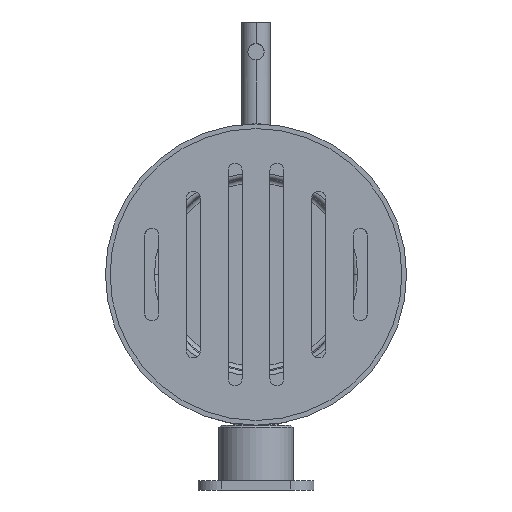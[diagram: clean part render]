
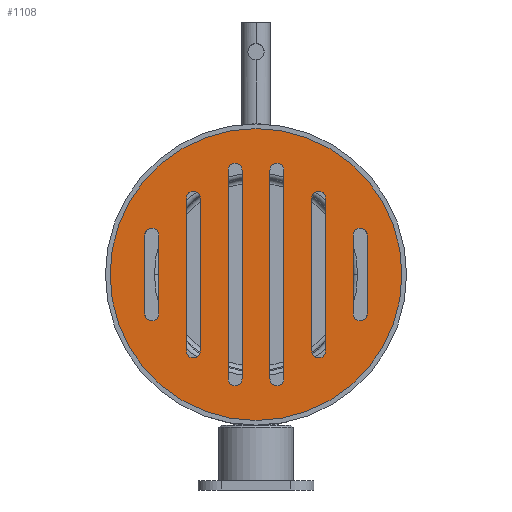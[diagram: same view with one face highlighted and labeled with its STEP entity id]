
A CAD part, front view. The second image highlights one B-rep face of the part: STEP entity #1108.
In plain terms, the highlighted planar face has unit normal (0, -1, 0).
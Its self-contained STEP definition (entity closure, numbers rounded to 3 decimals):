
#115=CARTESIAN_POINT('',(0.,-144.5,0.));
#116=DIRECTION('',(0.,1.,0.));
#117=DIRECTION('',(1.,0.,0.));
#118=AXIS2_PLACEMENT_3D('',#115,#116,#117);
#120=CARTESIAN_POINT('',(0.,-144.5,0.));
#121=DIRECTION('',(0.,-1.,0.));
#122=DIRECTION('',(1.,0.,0.));
#123=AXIS2_PLACEMENT_3D('',#120,#121,#122);
#125=DIRECTION('',(0.,0.,1.));
#126=VECTOR('',#125,17.);
#127=CARTESIAN_POINT('',(24.,-144.5,-8.5));
#128=LINE('',#127,#126);
#129=DIRECTION('',(0.,0.,-1.));
#130=VECTOR('',#129,17.);
#131=CARTESIAN_POINT('',(21.,-144.5,8.5));
#132=LINE('',#131,#130);
#133=DIRECTION('',(0.,0.,-1.));
#134=VECTOR('',#133,33.);
#135=CARTESIAN_POINT('',(12.,-144.5,16.5));
#136=LINE('',#135,#134);
#137=DIRECTION('',(0.,0.,1.));
#138=VECTOR('',#137,33.);
#139=CARTESIAN_POINT('',(15.,-144.5,-16.5));
#140=LINE('',#139,#138);
#141=DIRECTION('',(0.,0.,-1.));
#142=VECTOR('',#141,45.);
#143=CARTESIAN_POINT('',(3.,-144.5,22.5));
#144=LINE('',#143,#142);
#145=DIRECTION('',(0.,0.,1.));
#146=VECTOR('',#145,45.);
#147=CARTESIAN_POINT('',(6.,-144.5,-22.5));
#148=LINE('',#147,#146);
#149=DIRECTION('',(0.,0.,-1.));
#150=VECTOR('',#149,45.);
#151=CARTESIAN_POINT('',(-6.,-144.5,22.5));
#152=LINE('',#151,#150);
#153=DIRECTION('',(0.,0.,1.));
#154=VECTOR('',#153,45.);
#155=CARTESIAN_POINT('',(-3.,-144.5,-22.5));
#156=LINE('',#155,#154);
#157=DIRECTION('',(0.,0.,-1.));
#158=VECTOR('',#157,33.);
#159=CARTESIAN_POINT('',(-15.,-144.5,16.5));
#160=LINE('',#159,#158);
#161=DIRECTION('',(0.,0.,1.));
#162=VECTOR('',#161,33.);
#163=CARTESIAN_POINT('',(-12.,-144.5,-16.5));
#164=LINE('',#163,#162);
#165=DIRECTION('',(0.,0.,-1.));
#166=VECTOR('',#165,17.);
#167=CARTESIAN_POINT('',(-24.,-144.5,8.5));
#168=LINE('',#167,#166);
#169=DIRECTION('',(0.,0.,1.));
#170=VECTOR('',#169,17.);
#171=CARTESIAN_POINT('',(-21.,-144.5,-8.5));
#172=LINE('',#171,#170);
#186=CARTESIAN_POINT('',(22.5,-144.5,-8.5));
#187=DIRECTION('',(0.,1.,0.));
#188=DIRECTION('',(1.,0.,0.));
#189=AXIS2_PLACEMENT_3D('',#186,#187,#188);
#204=CARTESIAN_POINT('',(22.5,-144.5,8.5));
#205=DIRECTION('',(0.,1.,0.));
#206=DIRECTION('',(-1.,0.,0.));
#207=AXIS2_PLACEMENT_3D('',#204,#205,#206);
#576=CARTESIAN_POINT('',(13.5,-144.5,-16.5));
#577=DIRECTION('',(0.,1.,0.));
#578=DIRECTION('',(1.,0.,0.));
#579=AXIS2_PLACEMENT_3D('',#576,#577,#578);
#594=CARTESIAN_POINT('',(13.5,-144.5,16.5));
#595=DIRECTION('',(0.,1.,0.));
#596=DIRECTION('',(-1.,0.,0.));
#597=AXIS2_PLACEMENT_3D('',#594,#595,#596);
#612=CARTESIAN_POINT('',(4.5,-144.5,-22.5));
#613=DIRECTION('',(0.,1.,0.));
#614=DIRECTION('',(1.,0.,0.));
#615=AXIS2_PLACEMENT_3D('',#612,#613,#614);
#625=CARTESIAN_POINT('',(4.5,-144.5,22.5));
#626=DIRECTION('',(0.,1.,0.));
#627=DIRECTION('',(-1.,0.,0.));
#628=AXIS2_PLACEMENT_3D('',#625,#626,#627);
#648=CARTESIAN_POINT('',(-4.5,-144.5,-22.5));
#649=DIRECTION('',(0.,1.,0.));
#650=DIRECTION('',(1.,0.,0.));
#651=AXIS2_PLACEMENT_3D('',#648,#649,#650);
#666=CARTESIAN_POINT('',(-4.5,-144.5,22.5));
#667=DIRECTION('',(0.,1.,0.));
#668=DIRECTION('',(-1.,0.,0.));
#669=AXIS2_PLACEMENT_3D('',#666,#667,#668);
#684=CARTESIAN_POINT('',(-13.5,-144.5,-16.5));
#685=DIRECTION('',(0.,1.,0.));
#686=DIRECTION('',(1.,0.,0.));
#687=AXIS2_PLACEMENT_3D('',#684,#685,#686);
#702=CARTESIAN_POINT('',(-13.5,-144.5,16.5));
#703=DIRECTION('',(0.,1.,0.));
#704=DIRECTION('',(-1.,0.,0.));
#705=AXIS2_PLACEMENT_3D('',#702,#703,#704);
#720=CARTESIAN_POINT('',(-22.5,-144.5,-8.5));
#721=DIRECTION('',(0.,1.,0.));
#722=DIRECTION('',(1.,0.,0.));
#723=AXIS2_PLACEMENT_3D('',#720,#721,#722);
#738=CARTESIAN_POINT('',(-22.5,-144.5,8.5));
#739=DIRECTION('',(0.,1.,0.));
#740=DIRECTION('',(-1.,0.,0.));
#741=AXIS2_PLACEMENT_3D('',#738,#739,#740);
#815=CARTESIAN_POINT('',(31.5,-144.5,0.));
#816=CARTESIAN_POINT('',(-31.5,-144.5,0.));
#817=VERTEX_POINT('',#815);
#818=VERTEX_POINT('',#816);
#824=CARTESIAN_POINT('',(21.,-144.5,-8.5));
#826=VERTEX_POINT('',#824);
#828=CARTESIAN_POINT('',(24.,-144.5,-8.5));
#830=VERTEX_POINT('',#828);
#832=CARTESIAN_POINT('',(12.,-144.5,-16.5));
#834=VERTEX_POINT('',#832);
#836=CARTESIAN_POINT('',(15.,-144.5,-16.5));
#838=VERTEX_POINT('',#836);
#840=CARTESIAN_POINT('',(3.,-144.5,-22.5));
#842=VERTEX_POINT('',#840);
#844=CARTESIAN_POINT('',(6.,-144.5,-22.5));
#846=VERTEX_POINT('',#844);
#848=CARTESIAN_POINT('',(-6.,-144.5,-22.5));
#850=VERTEX_POINT('',#848);
#852=CARTESIAN_POINT('',(-3.,-144.5,-22.5));
#854=VERTEX_POINT('',#852);
#856=CARTESIAN_POINT('',(-15.,-144.5,-16.5));
#858=VERTEX_POINT('',#856);
#860=CARTESIAN_POINT('',(-12.,-144.5,-16.5));
#862=VERTEX_POINT('',#860);
#864=CARTESIAN_POINT('',(-24.,-144.5,-8.5));
#866=VERTEX_POINT('',#864);
#868=CARTESIAN_POINT('',(-21.,-144.5,-8.5));
#870=VERTEX_POINT('',#868);
#872=CARTESIAN_POINT('',(-21.,-144.5,8.5));
#874=VERTEX_POINT('',#872);
#876=CARTESIAN_POINT('',(-24.,-144.5,8.5));
#878=VERTEX_POINT('',#876);
#880=CARTESIAN_POINT('',(-12.,-144.5,16.5));
#882=VERTEX_POINT('',#880);
#884=CARTESIAN_POINT('',(-15.,-144.5,16.5));
#886=VERTEX_POINT('',#884);
#888=CARTESIAN_POINT('',(-3.,-144.5,22.5));
#890=VERTEX_POINT('',#888);
#892=CARTESIAN_POINT('',(-6.,-144.5,22.5));
#894=VERTEX_POINT('',#892);
#896=CARTESIAN_POINT('',(24.,-144.5,8.5));
#898=VERTEX_POINT('',#896);
#900=CARTESIAN_POINT('',(21.,-144.5,8.5));
#902=VERTEX_POINT('',#900);
#904=CARTESIAN_POINT('',(15.,-144.5,16.5));
#906=VERTEX_POINT('',#904);
#908=CARTESIAN_POINT('',(12.,-144.5,16.5));
#910=VERTEX_POINT('',#908);
#911=CARTESIAN_POINT('',(3.,-144.5,22.5));
#913=VERTEX_POINT('',#911);
#915=CARTESIAN_POINT('',(6.,-144.5,22.5));
#917=VERTEX_POINT('',#915);
#1039=CARTESIAN_POINT('',(0.,-144.5,0.));
#1040=DIRECTION('',(0.,-1.,0.));
#1041=DIRECTION('',(-1.,0.,0.));
#1042=AXIS2_PLACEMENT_3D('',#1039,#1040,#1041);
#1043=PLANE('',#1042);
#1044=ORIENTED_EDGE('',*,*,#1033,.T.);
#1045=ORIENTED_EDGE('',*,*,#1019,.F.);
#1046=EDGE_LOOP('',(#1044,#1045));
#1047=FACE_OUTER_BOUND('',#1046,.F.);
#1049=ORIENTED_EDGE('',*,*,#1048,.T.);
#1051=ORIENTED_EDGE('',*,*,#1050,.F.);
#1053=ORIENTED_EDGE('',*,*,#1052,.T.);
#1055=ORIENTED_EDGE('',*,*,#1054,.F.);
#1056=EDGE_LOOP('',(#1049,#1051,#1053,#1055));
#1057=FACE_BOUND('',#1056,.F.);
#1059=ORIENTED_EDGE('',*,*,#1058,.T.);
#1061=ORIENTED_EDGE('',*,*,#1060,.F.);
#1063=ORIENTED_EDGE('',*,*,#1062,.T.);
#1065=ORIENTED_EDGE('',*,*,#1064,.F.);
#1066=EDGE_LOOP('',(#1059,#1061,#1063,#1065));
#1067=FACE_BOUND('',#1066,.F.);
#1069=ORIENTED_EDGE('',*,*,#1068,.T.);
#1071=ORIENTED_EDGE('',*,*,#1070,.F.);
#1073=ORIENTED_EDGE('',*,*,#1072,.T.);
#1075=ORIENTED_EDGE('',*,*,#1074,.F.);
#1076=EDGE_LOOP('',(#1069,#1071,#1073,#1075));
#1077=FACE_BOUND('',#1076,.F.);
#1079=ORIENTED_EDGE('',*,*,#1078,.T.);
#1081=ORIENTED_EDGE('',*,*,#1080,.F.);
#1083=ORIENTED_EDGE('',*,*,#1082,.T.);
#1085=ORIENTED_EDGE('',*,*,#1084,.F.);
#1086=EDGE_LOOP('',(#1079,#1081,#1083,#1085));
#1087=FACE_BOUND('',#1086,.F.);
#1089=ORIENTED_EDGE('',*,*,#1088,.T.);
#1091=ORIENTED_EDGE('',*,*,#1090,.F.);
#1093=ORIENTED_EDGE('',*,*,#1092,.T.);
#1095=ORIENTED_EDGE('',*,*,#1094,.F.);
#1096=EDGE_LOOP('',(#1089,#1091,#1093,#1095));
#1097=FACE_BOUND('',#1096,.F.);
#1099=ORIENTED_EDGE('',*,*,#1098,.T.);
#1101=ORIENTED_EDGE('',*,*,#1100,.F.);
#1103=ORIENTED_EDGE('',*,*,#1102,.T.);
#1105=ORIENTED_EDGE('',*,*,#1104,.F.);
#1106=EDGE_LOOP('',(#1099,#1101,#1103,#1105));
#1107=FACE_BOUND('',#1106,.F.);
#1108=ADVANCED_FACE('',(#1047,#1057,#1067,#1077,#1087,#1097,#1107),#1043,.T.);
#119=CIRCLE('',#118,31.5);
#124=CIRCLE('',#123,31.5);
#190=CIRCLE('',#189,1.5);
#208=CIRCLE('',#207,1.5);
#580=CIRCLE('',#579,1.5);
#598=CIRCLE('',#597,1.5);
#616=CIRCLE('',#615,1.5);
#629=CIRCLE('',#628,1.5);
#652=CIRCLE('',#651,1.5);
#670=CIRCLE('',#669,1.5);
#688=CIRCLE('',#687,1.5);
#706=CIRCLE('',#705,1.5);
#724=CIRCLE('',#723,1.5);
#742=CIRCLE('',#741,1.5);
#1019=EDGE_CURVE('',#817,#818,#124,.T.);
#1033=EDGE_CURVE('',#817,#818,#119,.T.);
#1048=EDGE_CURVE('',#830,#898,#128,.T.);
#1050=EDGE_CURVE('',#902,#898,#208,.T.);
#1052=EDGE_CURVE('',#902,#826,#132,.T.);
#1054=EDGE_CURVE('',#830,#826,#190,.T.);
#1058=EDGE_CURVE('',#910,#834,#136,.T.);
#1060=EDGE_CURVE('',#838,#834,#580,.T.);
#1062=EDGE_CURVE('',#838,#906,#140,.T.);
#1064=EDGE_CURVE('',#910,#906,#598,.T.);
#1068=EDGE_CURVE('',#913,#842,#144,.T.);
#1070=EDGE_CURVE('',#846,#842,#616,.T.);
#1072=EDGE_CURVE('',#846,#917,#148,.T.);
#1074=EDGE_CURVE('',#913,#917,#629,.T.);
#1078=EDGE_CURVE('',#894,#850,#152,.T.);
#1080=EDGE_CURVE('',#854,#850,#652,.T.);
#1082=EDGE_CURVE('',#854,#890,#156,.T.);
#1084=EDGE_CURVE('',#894,#890,#670,.T.);
#1088=EDGE_CURVE('',#886,#858,#160,.T.);
#1090=EDGE_CURVE('',#862,#858,#688,.T.);
#1092=EDGE_CURVE('',#862,#882,#164,.T.);
#1094=EDGE_CURVE('',#886,#882,#706,.T.);
#1098=EDGE_CURVE('',#878,#866,#168,.T.);
#1100=EDGE_CURVE('',#870,#866,#724,.T.);
#1102=EDGE_CURVE('',#870,#874,#172,.T.);
#1104=EDGE_CURVE('',#878,#874,#742,.T.);
